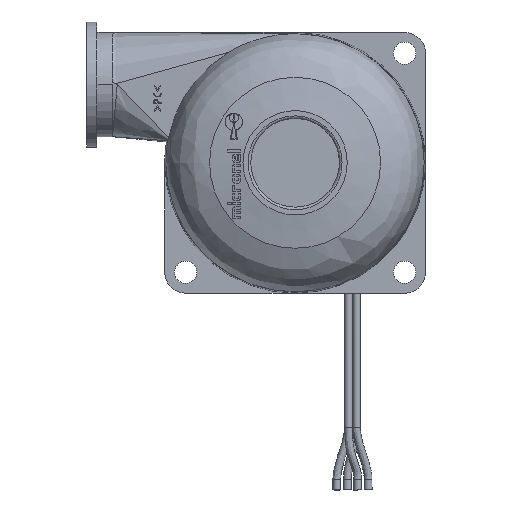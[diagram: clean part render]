
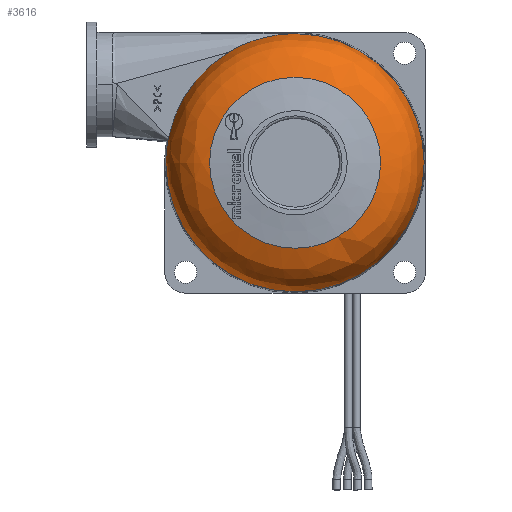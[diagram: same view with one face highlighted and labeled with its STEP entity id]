
A CAD part, left-side view. The second image highlights one B-rep face of the part: STEP entity #3616.
In plain terms, the highlighted free-form (B-spline) face has degree [2, 2] with [7, 3] control points.
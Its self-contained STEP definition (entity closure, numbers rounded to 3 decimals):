
#2727=(
BOUNDED_CURVE()
B_SPLINE_CURVE(2,(#13041,#13042,#13043),.UNSPECIFIED.,.F.,.F.)
B_SPLINE_CURVE_WITH_KNOTS((3,3),(0.,1.),.UNSPECIFIED.)
CURVE()
GEOMETRIC_REPRESENTATION_ITEM()
RATIONAL_B_SPLINE_CURVE((0.804,0.801,0.799))
REPRESENTATION_ITEM('')
);
#2899=(
BOUNDED_SURFACE()
B_SPLINE_SURFACE(2,2,((#13107,#13108,#13109),(#13110,#13111,#13112),(#13113,
#13114,#13115),(#13116,#13117,#13118),(#13119,#13120,#13121),(#13122,#13123,
#13124),(#13125,#13126,#13127)),.UNSPECIFIED.,.T.,.F.,.F.)
B_SPLINE_SURFACE_WITH_KNOTS((1,2,2,2,2,1),(3,3),(-0.333,0.,0.333,
0.667,1.,1.333),(0.,1.),.UNSPECIFIED.)
GEOMETRIC_REPRESENTATION_ITEM()
RATIONAL_B_SPLINE_SURFACE(((1.,0.772,1.),(0.5,0.386,
0.5),(1.,0.772,1.),(0.5,0.386,0.5),(1.,0.772,
1.),(0.5,0.386,0.5),(1.,0.772,1.)))
REPRESENTATION_ITEM('')
SURFACE()
);
#3253=B_SPLINE_CURVE_WITH_KNOTS('',3,(#13067,#13068,#13069,#13070),.UNSPECIFIED.,
 .F.,.F.,(4,4),(0.,1.),.UNSPECIFIED.);
#3254=B_SPLINE_CURVE_WITH_KNOTS('',3,(#13071,#13072,#13073,#13074,#13075,
#13076),.UNSPECIFIED.,.F.,.F.,(4,2,4),(0.,0.5,1.),.UNSPECIFIED.);
#3256=B_SPLINE_CURVE_WITH_KNOTS('',3,(#13091,#13092,#13093,#13094,#13095,
#13096,#13097,#13098,#13099,#13100),.UNSPECIFIED.,.F.,.F.,(4,3,3,4),(0.,
0.401,0.805,1.),.UNSPECIFIED.);
#3616=ADVANCED_FACE('',(#4323,#4324),#2899,.T.);
#3957=CIRCLE('',#8332,24.737);
#4025=CIRCLE('',#8550,16.397);
#4031=CIRCLE('',#8561,24.743);
#4032=CIRCLE('',#8562,24.743);
#4036=CIRCLE('',#8568,24.743);
#4323=FACE_BOUND('',#4667,.T.);
#4324=FACE_BOUND('',#4668,.T.);
#4667=EDGE_LOOP('',(#5637));
#4668=EDGE_LOOP('',(#5638,#5639,#5640,#5641,#5642,#5643,#5644,#5645));
#5637=ORIENTED_EDGE('',*,*,#7454,.T.);
#5638=ORIENTED_EDGE('',*,*,#7482,.T.);
#5639=ORIENTED_EDGE('',*,*,#7468,.F.);
#5640=ORIENTED_EDGE('',*,*,#7467,.F.);
#5641=ORIENTED_EDGE('',*,*,#7475,.T.);
#5642=ORIENTED_EDGE('',*,*,#7480,.T.);
#5643=ORIENTED_EDGE('',*,*,#7477,.F.);
#5644=ORIENTED_EDGE('',*,*,#7479,.T.);
#5645=ORIENTED_EDGE('',*,*,#7100,.T.);
#6528=VERTEX_POINT('',#10082);
#6529=VERTEX_POINT('',#10084);
#6792=VERTEX_POINT('',#12938);
#6804=VERTEX_POINT('',#13016);
#6805=VERTEX_POINT('',#13018);
#6806=VERTEX_POINT('',#13020);
#6810=VERTEX_POINT('',#13040);
#6811=VERTEX_POINT('',#13049);
#6812=VERTEX_POINT('',#13050);
#7100=EDGE_CURVE('',#6529,#6528,#3957,.T.);
#7454=EDGE_CURVE('',#6792,#6792,#4025,.T.);
#7467=EDGE_CURVE('',#6804,#6805,#4031,.T.);
#7468=EDGE_CURVE('',#6805,#6806,#4032,.T.);
#7475=EDGE_CURVE('',#6804,#6810,#2727,.T.);
#7477=EDGE_CURVE('',#6812,#6811,#4036,.T.);
#7479=EDGE_CURVE('',#6812,#6529,#3253,.T.);
#7480=EDGE_CURVE('',#6810,#6811,#3254,.T.);
#7482=EDGE_CURVE('',#6528,#6806,#3256,.T.);
#8332=AXIS2_PLACEMENT_3D('',#10083,#8852,#8853);
#8550=AXIS2_PLACEMENT_3D('',#12937,#9386,#9387);
#8561=AXIS2_PLACEMENT_3D('',#13017,#9411,#9412);
#8562=AXIS2_PLACEMENT_3D('',#13019,#9413,#9414);
#8568=AXIS2_PLACEMENT_3D('',#13051,#9427,#9428);
#8852=DIRECTION('',(-1.,0.,0.));
#8853=DIRECTION('',(0.,0.516,0.856));
#9386=DIRECTION('',(1.,0.,0.));
#9387=DIRECTION('',(0.,1.,0.));
#9411=DIRECTION('',(1.,0.,0.));
#9412=DIRECTION('',(0.,0.,1.));
#9413=DIRECTION('',(1.,0.,0.));
#9414=DIRECTION('',(0.,1.,0.));
#9427=DIRECTION('',(1.,0.,0.));
#9428=DIRECTION('',(0.,0.334,0.943));
#10082=CARTESIAN_POINT('',(-5.316,15.556,-40.071));
#10083=CARTESIAN_POINT('',(-5.316,-8.708,-44.883));
#10084=CARTESIAN_POINT('',(-5.316,4.067,-23.701));
#12937=CARTESIAN_POINT('',(-14.746,-8.708,-44.883));
#12938=CARTESIAN_POINT('',(-14.746,7.689,-44.883));
#13016=CARTESIAN_POINT('',(-5.144,-8.708,-20.141));
#13017=CARTESIAN_POINT('',(-5.144,-8.708,-44.883));
#13018=CARTESIAN_POINT('',(-5.144,16.035,-44.883));
#13019=CARTESIAN_POINT('',(-5.144,-8.708,-44.883));
#13020=CARTESIAN_POINT('',(-5.144,15.637,-40.465));
#13040=CARTESIAN_POINT('',(-5.316,-8.708,-20.146));
#13041=CARTESIAN_POINT('',(-5.144,-8.708,-20.141));
#13042=CARTESIAN_POINT('',(-5.23,-8.708,-20.143));
#13043=CARTESIAN_POINT('',(-5.316,-8.708,-20.147));
#13049=CARTESIAN_POINT('',(-5.144,-7.722,-20.16));
#13050=CARTESIAN_POINT('',(-5.144,-0.442,-21.562));
#13051=CARTESIAN_POINT('',(-5.144,-8.708,-44.883));
#13067=CARTESIAN_POINT('',(-5.144,-0.442,-21.562));
#13068=CARTESIAN_POINT('',(-5.229,1.133,-22.123));
#13069=CARTESIAN_POINT('',(-5.316,2.634,-22.837));
#13070=CARTESIAN_POINT('',(-5.316,4.067,-23.701));
#13071=CARTESIAN_POINT('',(-5.316,-8.708,-20.147));
#13072=CARTESIAN_POINT('',(-5.316,-8.699,-20.147));
#13073=CARTESIAN_POINT('',(-5.308,-8.658,-20.145));
#13074=CARTESIAN_POINT('',(-5.211,-8.179,-20.147));
#13075=CARTESIAN_POINT('',(-5.172,-7.947,-20.152));
#13076=CARTESIAN_POINT('',(-5.144,-7.722,-20.16));
#13091=CARTESIAN_POINT('',(-5.316,15.556,-40.071));
#13092=CARTESIAN_POINT('',(-5.316,15.568,-40.129));
#13093=CARTESIAN_POINT('',(-5.305,15.58,-40.188));
#13094=CARTESIAN_POINT('',(-5.286,15.591,-40.243));
#13095=CARTESIAN_POINT('',(-5.266,15.602,-40.299));
#13096=CARTESIAN_POINT('',(-5.237,15.613,-40.352));
#13097=CARTESIAN_POINT('',(-5.202,15.623,-40.399));
#13098=CARTESIAN_POINT('',(-5.184,15.628,-40.422));
#13099=CARTESIAN_POINT('',(-5.165,15.633,-40.444));
#13100=CARTESIAN_POINT('',(-5.144,15.637,-40.465));
#13107=CARTESIAN_POINT('',(-14.746,7.689,-44.883));
#13108=CARTESIAN_POINT('',(-13.385,15.819,-44.883));
#13109=CARTESIAN_POINT('',(-5.144,16.035,-44.883));
#13110=CARTESIAN_POINT('',(-14.746,7.689,-16.484));
#13111=CARTESIAN_POINT('',(-13.385,15.819,-2.402));
#13112=CARTESIAN_POINT('',(-5.144,16.035,-2.028));
#13113=CARTESIAN_POINT('',(-14.746,-16.906,-30.684));
#13114=CARTESIAN_POINT('',(-13.385,-20.971,-23.642));
#13115=CARTESIAN_POINT('',(-5.144,-21.079,-23.456));
#13116=CARTESIAN_POINT('',(-14.746,-41.501,-44.883));
#13117=CARTESIAN_POINT('',(-13.385,-57.762,-44.883));
#13118=CARTESIAN_POINT('',(-5.144,-58.193,-44.883));
#13119=CARTESIAN_POINT('',(-14.746,-16.906,-59.083));
#13120=CARTESIAN_POINT('',(-13.385,-20.971,-66.124));
#13121=CARTESIAN_POINT('',(-5.144,-21.079,-66.311));
#13122=CARTESIAN_POINT('',(-14.746,7.689,-73.283));
#13123=CARTESIAN_POINT('',(-13.385,15.819,-87.365));
#13124=CARTESIAN_POINT('',(-5.144,16.035,-87.739));
#13125=CARTESIAN_POINT('',(-14.746,7.689,-44.883));
#13126=CARTESIAN_POINT('',(-13.385,15.819,-44.883));
#13127=CARTESIAN_POINT('',(-5.144,16.035,-44.883));
